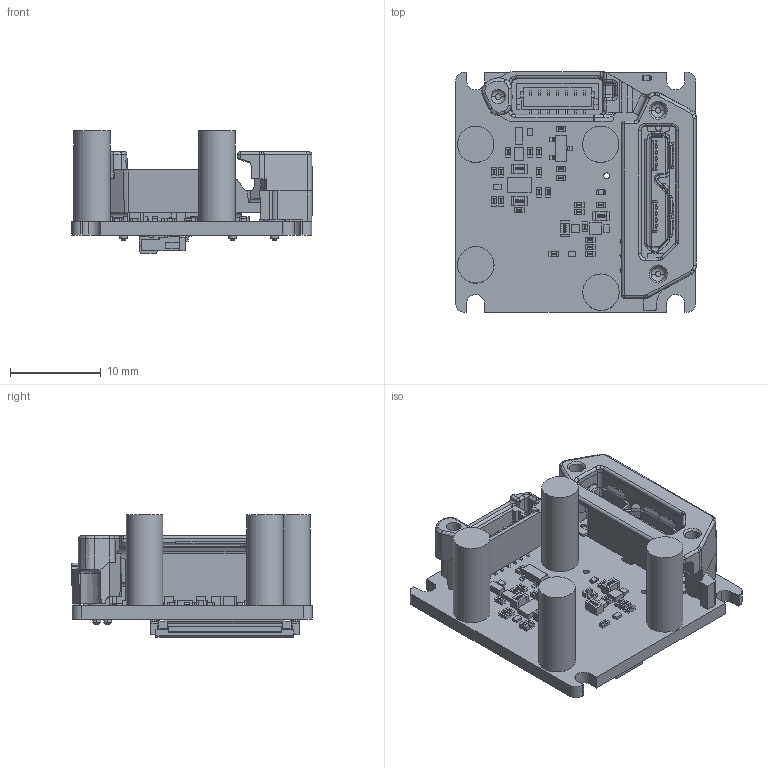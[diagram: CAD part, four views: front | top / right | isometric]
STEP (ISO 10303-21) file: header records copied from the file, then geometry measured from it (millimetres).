
FILE_DESCRIPTION(('Open CASCADE Model'),'2;1');
FILE_NAME('Open CASCADE Shape Model','2022-03-02T14:27:22',('Author'),( 'Open CASCADE'),'Open CASCADE STEP processor 6.8','Open CASCADE 6.8' ,'Unknown');
FILE_SCHEMA(('AUTOMOTIVE_DESIGN { 1 0 10303 214 1 1 1 1 }'));
Length unit declared in the file: millimetre
Products named in the file (77): PCB; Board; Open CASCADE STEP translator 6.8 2.1.1; Open CASCADE STEP translator 6.8 2.1.1.1; Open CASCADE STEP translator 6.8 2.1.1.2; J2; J-897-10-010-00-300002; R12; R-0402_0.4; D4; D-0402_LEDSML_0.25; X3; X-PCB-MOUNT-USBV; U1; 6323886992; Extruded; U3; 6323886512; U2; 6323890112; R10; R7; R8; R14; R11; R15; R3; R5; R18; R17; R6; R4; R2; R19; R1; R13; R9; R16; Q1; 6323887152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
Assembly tree (107 placements, depth 5):
  PCB
    Board
      Open CASCADE STEP translator 6.8 2.1.1
        Open CASCADE STEP translator 6.8 2.1.1.1
        Open CASCADE STEP translator 6.8 2.1.1.2
    J2
      J-897-10-010-00-300002
    R12
      R-0402_0.4
    D4
      D-0402_LEDSML_0.25
    X3
      X-PCB-MOUNT-USBV
    U1
      6323886992
        Extruded
    U3
      6323886512
        Extruded
    U2
      6323890112
        Extruded
    R10
      R-0402_0.4
    R7
      R-0402_0.4
    R8
      R-0402_0.4
    R14
      R-0402_0.4
    R11
      R-0402_0.4
    R15
      R-0402_0.4
    R3
      R-0402_0.4
    R5
      R-0402_0.4
    R18
      R-0402_0.4
    R17
      R-0402_0.4
    R6
      R-0402_0.4
    R4
      R-0402_0.4
    R2
      R-0402_0.4
    R19
      R-0402_0.4
    R1
      R-0402_0.4
    R13
      R-0402_0.4
    R9
      R-0402_0.4
    R16
      R-0402_0.4
    Q1
      6323887152
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Bounding box: 26.48 x 26.45 x 13.45 mm (x, y, z)
Volume: 2338.5 mm3; surface area: 4665.8 mm2
Topology: 77 solids, 77 shells, 4066 faces, 10596 edges, 6861 vertices
Faces by surface type: plane 2508, bspline 956, cylinder 509, cone 42, sphere 26, revolution 13, torus 12
Full cylindrical faces by diameter (mm): 0.65 x4, 0.8 x1, 1.1 x4, 2 x4, 4 x4
Entity records: 81468 total; most frequent: CARTESIAN_POINT 21792, ORIENTED_EDGE 11996, DIRECTION 10721, EDGE_CURVE 5998, LINE 4546, VECTOR 4546, VERTEX_POINT 3877, AXIS2_PLACEMENT_3D 3081
